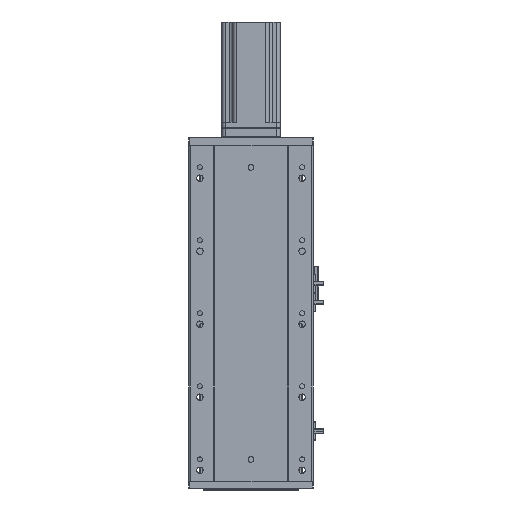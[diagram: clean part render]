
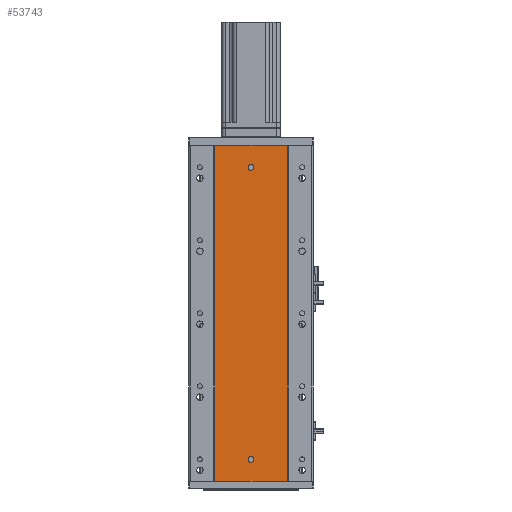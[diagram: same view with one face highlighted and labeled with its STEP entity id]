
A CAD part, front view. The second image highlights one B-rep face of the part: STEP entity #53743.
In plain terms, the highlighted planar face has unit normal (0, -1, 0).
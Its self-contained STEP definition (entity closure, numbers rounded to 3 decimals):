
#26 = CARTESIAN_POINT ( 'NONE',  ( 136.47, 79.476, 26. ) ) ;
#156 = AXIS2_PLACEMENT_3D ( 'NONE', #42451, #31644, #26664 ) ;
#1783 = LINE ( 'NONE', #59805, #13105 ) ;
#2060 = FACE_OUTER_BOUND ( 'NONE', #36028, .T. ) ;
#2841 = EDGE_CURVE ( 'NONE', #31494, #51315, #48542, .T. ) ;
#3972 = ORIENTED_EDGE ( 'NONE', *, *, #21395, .T. ) ;
#4034 = CARTESIAN_POINT ( 'NONE',  ( 86.97, 79.476, 306.667 ) ) ;
#9345 = DIRECTION ( 'NONE',  ( 0., 0., -1. ) ) ;
#9599 = ORIENTED_EDGE ( 'NONE', *, *, #2841, .F. ) ;
#9643 = CIRCLE ( 'NONE', #66477, 4. ) ;
#10189 = CARTESIAN_POINT ( 'NONE',  ( 136.47, 79.476, 430. ) ) ;
#12287 = ORIENTED_EDGE ( 'NONE', *, *, #57757, .T. ) ;
#12291 = ORIENTED_EDGE ( 'NONE', *, *, #41094, .F. ) ;
#13105 = VECTOR ( 'NONE', #48491, 1000. ) ;
#14218 = CARTESIAN_POINT ( 'NONE',  ( 86.97, 79.476, 153.333 ) ) ;
#15691 = DIRECTION ( 'NONE',  ( 0., -1., 0. ) ) ;
#19635 = CARTESIAN_POINT ( 'NONE',  ( 185.97, 79.476, 460. ) ) ;
#19850 = VERTEX_POINT ( 'NONE', #59955 ) ;
#21256 = EDGE_LOOP ( 'NONE', ( #9599, #55082 ) ) ;
#21395 = EDGE_CURVE ( 'NONE', #19850, #51189, #49097, .T. ) ;
#22806 = DIRECTION ( 'NONE',  ( 0., 0., -1. ) ) ;
#23304 = CIRCLE ( 'NONE', #40935, 4. ) ;
#24678 = VERTEX_POINT ( 'NONE', #26 ) ;
#26361 = FACE_BOUND ( 'NONE', #21256, .T. ) ;
#26664 = DIRECTION ( 'NONE',  ( 0., 0., 1. ) ) ;
#27977 = CARTESIAN_POINT ( 'NONE',  ( 185.97, 79.476, 153.333 ) ) ;
#29201 = ORIENTED_EDGE ( 'NONE', *, *, #30441, .F. ) ;
#29407 = CARTESIAN_POINT ( 'NONE',  ( 86.97, 79.476, 460. ) ) ;
#30024 = AXIS2_PLACEMENT_3D ( 'NONE', #10189, #46365, #51555 ) ;
#30441 = EDGE_CURVE ( 'NONE', #61465, #51189, #42698, .T. ) ;
#31494 = VERTEX_POINT ( 'NONE', #54683 ) ;
#31644 = DIRECTION ( 'NONE',  ( 0., 1., 0. ) ) ;
#35221 = FACE_BOUND ( 'NONE', #43848, .T. ) ;
#36028 = EDGE_LOOP ( 'NONE', ( #3972, #29201, #52962, #12287 ) ) ;
#36837 = VERTEX_POINT ( 'NONE', #57321 ) ;
#38345 = EDGE_CURVE ( 'NONE', #51315, #31494, #50427, .T. ) ;
#38466 = CARTESIAN_POINT ( 'NONE',  ( 136.47, 79.476, 34. ) ) ;
#39192 = EDGE_CURVE ( 'NONE', #36837, #61465, #1783, .T. ) ;
#40920 = ORIENTED_EDGE ( 'NONE', *, *, #65978, .F. ) ;
#40935 = AXIS2_PLACEMENT_3D ( 'NONE', #50038, #44868, #9345 ) ;
#41094 = EDGE_CURVE ( 'NONE', #24678, #51852, #9643, .T. ) ;
#42451 = CARTESIAN_POINT ( 'NONE',  ( 0., 79.476, 460. ) ) ;
#42698 = B_SPLINE_CURVE_WITH_KNOTS ( 'NONE', 3,
 ( #53913, #53680, #27977, #43522 ),
 .UNSPECIFIED., .F., .F.,
 ( 4, 4 ),
 ( 0., 1. ),
 .UNSPECIFIED. ) ;
#43522 = CARTESIAN_POINT ( 'NONE',  ( 185.97, 79.476, 0. ) ) ;
#43848 = EDGE_LOOP ( 'NONE', ( #12291, #40920 ) ) ;
#44868 = DIRECTION ( 'NONE',  ( 0., -1., 0. ) ) ;
#44971 = CARTESIAN_POINT ( 'NONE',  ( 86.97, 79.476, 0. ) ) ;
#45087 = VECTOR ( 'NONE', #62735, 1000. ) ;
#46365 = DIRECTION ( 'NONE',  ( 0., -1., 0. ) ) ;
#46429 = CARTESIAN_POINT ( 'NONE',  ( 0., 79.476, 0. ) ) ;
#46676 = CARTESIAN_POINT ( 'NONE',  ( 136.47, 79.476, 30. ) ) ;
#48234 = CARTESIAN_POINT ( 'NONE',  ( 136.47, 79.476, 434. ) ) ;
#48491 = DIRECTION ( 'NONE',  ( 1., 0., 0. ) ) ;
#48542 = CIRCLE ( 'NONE', #52825, 4. ) ;
#49097 = LINE ( 'NONE', #46429, #45087 ) ;
#50038 = CARTESIAN_POINT ( 'NONE',  ( 136.47, 79.476, 30. ) ) ;
#50427 = CIRCLE ( 'NONE', #30024, 4. ) ;
#51189 = VERTEX_POINT ( 'NONE', #63007 ) ;
#51315 = VERTEX_POINT ( 'NONE', #48234 ) ;
#51555 = DIRECTION ( 'NONE',  ( 0., 0., -1. ) ) ;
#51852 = VERTEX_POINT ( 'NONE', #38466 ) ;
#52825 = AXIS2_PLACEMENT_3D ( 'NONE', #54448, #64010, #22806 ) ;
#52962 = ORIENTED_EDGE ( 'NONE', *, *, #39192, .F. ) ;
#53011 = B_SPLINE_CURVE_WITH_KNOTS ( 'NONE', 3,
 ( #29407, #4034, #14218, #44971 ),
 .UNSPECIFIED., .F., .F.,
 ( 4, 4 ),
 ( 0., 1. ),
 .UNSPECIFIED. ) ;
#53049 = PLANE ( 'NONE',  #156 ) ;
#53680 = CARTESIAN_POINT ( 'NONE',  ( 185.97, 79.476, 306.667 ) ) ;
#53743 = ADVANCED_FACE ( 'NONE', ( #26361, #35221, #2060 ), #53049, .F. ) ;
#53913 = CARTESIAN_POINT ( 'NONE',  ( 185.97, 79.476, 460. ) ) ;
#54448 = CARTESIAN_POINT ( 'NONE',  ( 136.47, 79.476, 430. ) ) ;
#54683 = CARTESIAN_POINT ( 'NONE',  ( 136.47, 79.476, 426. ) ) ;
#55082 = ORIENTED_EDGE ( 'NONE', *, *, #38345, .F. ) ;
#57321 = CARTESIAN_POINT ( 'NONE',  ( 86.97, 79.476, 460. ) ) ;
#57757 = EDGE_CURVE ( 'NONE', #36837, #19850, #53011, .T. ) ;
#58212 = DIRECTION ( 'NONE',  ( 0., 0., -1. ) ) ;
#59805 = CARTESIAN_POINT ( 'NONE',  ( 0., 79.476, 460. ) ) ;
#59955 = CARTESIAN_POINT ( 'NONE',  ( 86.97, 79.476, 0. ) ) ;
#61465 = VERTEX_POINT ( 'NONE', #19635 ) ;
#62735 = DIRECTION ( 'NONE',  ( 1., 0., 0. ) ) ;
#63007 = CARTESIAN_POINT ( 'NONE',  ( 185.97, 79.476, 0. ) ) ;
#64010 = DIRECTION ( 'NONE',  ( 0., -1., 0. ) ) ;
#65978 = EDGE_CURVE ( 'NONE', #51852, #24678, #23304, .T. ) ;
#66477 = AXIS2_PLACEMENT_3D ( 'NONE', #46676, #15691, #58212 ) ;
